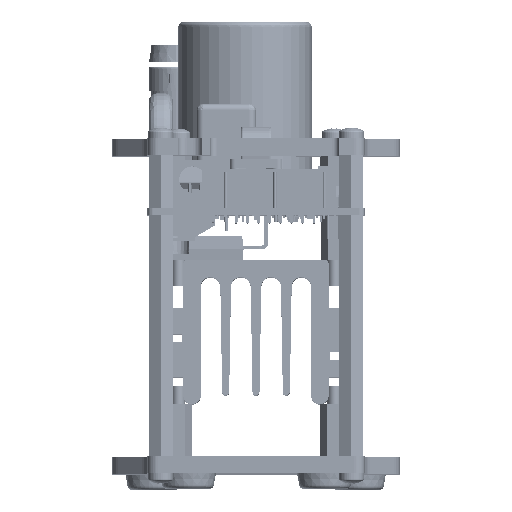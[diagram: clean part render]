
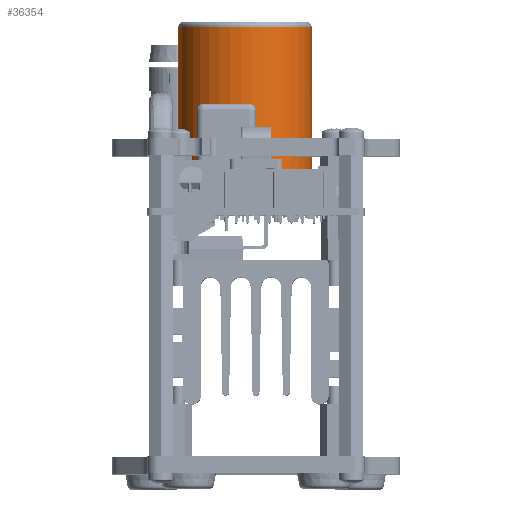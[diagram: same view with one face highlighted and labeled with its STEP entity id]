
A CAD part, top view. The second image highlights one B-rep face of the part: STEP entity #36354.
In plain terms, the highlighted cylindrical face has radius 15.24 mm (diameter 30.48 mm), a partial arc.
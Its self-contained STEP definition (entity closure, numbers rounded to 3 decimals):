
#1900 = DIRECTION ( 'NONE',  ( 0., 0., 1. ) ) ;
#10526 = CIRCLE ( 'NONE', #321060, 15.24 ) ;
#15300 = VERTEX_POINT ( 'NONE', #77863 ) ;
#19047 = DIRECTION ( 'NONE',  ( 0., -1., 0. ) ) ;
#27066 = AXIS2_PLACEMENT_3D ( 'NONE', #377100, #1900, #123980 ) ;
#36354 = ADVANCED_FACE ( 'NONE', ( #220244 ), #346742, .T. ) ;
#41539 = EDGE_CURVE ( 'NONE', #15300, #353502, #378595, .T. ) ;
#44785 = VERTEX_POINT ( 'NONE', #97451 ) ;
#57519 = VERTEX_POINT ( 'NONE', #73018 ) ;
#61160 = EDGE_CURVE ( 'NONE', #136597, #15300, #359107, .T. ) ;
#65901 = AXIS2_PLACEMENT_3D ( 'NONE', #331962, #396368, #19047 ) ;
#67439 = CARTESIAN_POINT ( 'NONE',  ( 47.76, 42.544, 8.947 ) ) ;
#67557 = EDGE_CURVE ( 'NONE', #100923, #57519, #10526, .T. ) ;
#72943 = DIRECTION ( 'NONE',  ( 0., -1., 0. ) ) ;
#73018 = CARTESIAN_POINT ( 'NONE',  ( 43.26, 12.743, 8.947 ) ) ;
#77863 = CARTESIAN_POINT ( 'NONE',  ( 47.76, 12.064, 41.563 ) ) ;
#80732 = DIRECTION ( 'NONE',  ( 0., 0., -1. ) ) ;
#82729 = DIRECTION ( 'NONE',  ( 1., 0., 0. ) ) ;
#97451 = CARTESIAN_POINT ( 'NONE',  ( 46.76, 12.096, 8.947 ) ) ;
#100923 = VERTEX_POINT ( 'NONE', #171470 ) ;
#101106 = EDGE_CURVE ( 'NONE', #100923, #177303, #279032, .T. ) ;
#123980 = DIRECTION ( 'NONE',  ( 0., -1., 0. ) ) ;
#124245 = ORIENTED_EDGE ( 'NONE', *, *, #195990, .T. ) ;
#127501 = DIRECTION ( 'NONE',  ( 0., 0., 1. ) ) ;
#133983 = ORIENTED_EDGE ( 'NONE', *, *, #41539, .T. ) ;
#135012 = DIRECTION ( 'NONE',  ( 0., -1., 0. ) ) ;
#136597 = VERTEX_POINT ( 'NONE', #165108 ) ;
#139342 = CIRCLE ( 'NONE', #27066, 15.24 ) ;
#139521 = CIRCLE ( 'NONE', #65901, 15.24 ) ;
#145363 = ORIENTED_EDGE ( 'NONE', *, *, #155775, .T. ) ;
#154629 = DIRECTION ( 'NONE',  ( 0., 0., 1. ) ) ;
#155775 = EDGE_CURVE ( 'NONE', #44785, #136597, #139342, .T. ) ;
#165108 = CARTESIAN_POINT ( 'NONE',  ( 47.76, 12.064, 8.947 ) ) ;
#171470 = CARTESIAN_POINT ( 'NONE',  ( 47.76, 42.544, 8.947 ) ) ;
#177303 = VERTEX_POINT ( 'NONE', #212690 ) ;
#187994 = CARTESIAN_POINT ( 'NONE',  ( 47.76, 27.304, 41.563 ) ) ;
#188881 = ORIENTED_EDGE ( 'NONE', *, *, #101106, .F. ) ;
#195323 = ORIENTED_EDGE ( 'NONE', *, *, #67557, .T. ) ;
#195990 = EDGE_CURVE ( 'NONE', #353502, #177303, #324416, .T. ) ;
#198616 = AXIS2_PLACEMENT_3D ( 'NONE', #271507, #80732, #82729 ) ;
#199494 = CARTESIAN_POINT ( 'NONE',  ( 47.76, 12.064, 8.947 ) ) ;
#199744 = AXIS2_PLACEMENT_3D ( 'NONE', #187994, #314419, #223102 ) ;
#201459 = DIRECTION ( 'NONE',  ( 0., 0., 1. ) ) ;
#211197 = ORIENTED_EDGE ( 'NONE', *, *, #61160, .T. ) ;
#212690 = CARTESIAN_POINT ( 'NONE',  ( 47.76, 42.544, 41.563 ) ) ;
#220244 = FACE_OUTER_BOUND ( 'NONE', #329546, .T. ) ;
#220609 = CARTESIAN_POINT ( 'NONE',  ( 43.26, 12.743, 41.563 ) ) ;
#223102 = DIRECTION ( 'NONE',  ( 0., 1., 0. ) ) ;
#238706 = CARTESIAN_POINT ( 'NONE',  ( 47.76, 27.304, 8.947 ) ) ;
#240733 = AXIS2_PLACEMENT_3D ( 'NONE', #238706, #292669, #135012 ) ;
#265052 = EDGE_CURVE ( 'NONE', #57519, #44785, #139521, .T. ) ;
#271507 = CARTESIAN_POINT ( 'NONE',  ( 47.76, 27.304, 41.563 ) ) ;
#279032 = LINE ( 'NONE', #67439, #316907 ) ;
#292669 = DIRECTION ( 'NONE',  ( 0., 0., 1. ) ) ;
#294755 = CARTESIAN_POINT ( 'NONE',  ( 47.76, 27.304, 8.947 ) ) ;
#314419 = DIRECTION ( 'NONE',  ( 0., 0., -1. ) ) ;
#316907 = VECTOR ( 'NONE', #154629, 1000. ) ;
#321060 = AXIS2_PLACEMENT_3D ( 'NONE', #294755, #201459, #72943 ) ;
#324416 = CIRCLE ( 'NONE', #198616, 15.24 ) ;
#329546 = EDGE_LOOP ( 'NONE', ( #188881, #195323, #384546, #145363, #211197, #133983, #124245 ) ) ;
#331962 = CARTESIAN_POINT ( 'NONE',  ( 47.76, 27.304, 8.947 ) ) ;
#341808 = VECTOR ( 'NONE', #127501, 1000. ) ;
#346742 = CYLINDRICAL_SURFACE ( 'NONE', #240733, 15.24 ) ;
#353502 = VERTEX_POINT ( 'NONE', #220609 ) ;
#359107 = LINE ( 'NONE', #199494, #341808 ) ;
#377100 = CARTESIAN_POINT ( 'NONE',  ( 47.76, 27.304, 8.947 ) ) ;
#378595 = CIRCLE ( 'NONE', #199744, 15.24 ) ;
#384546 = ORIENTED_EDGE ( 'NONE', *, *, #265052, .T. ) ;
#396368 = DIRECTION ( 'NONE',  ( 0., 0., 1. ) ) ;
